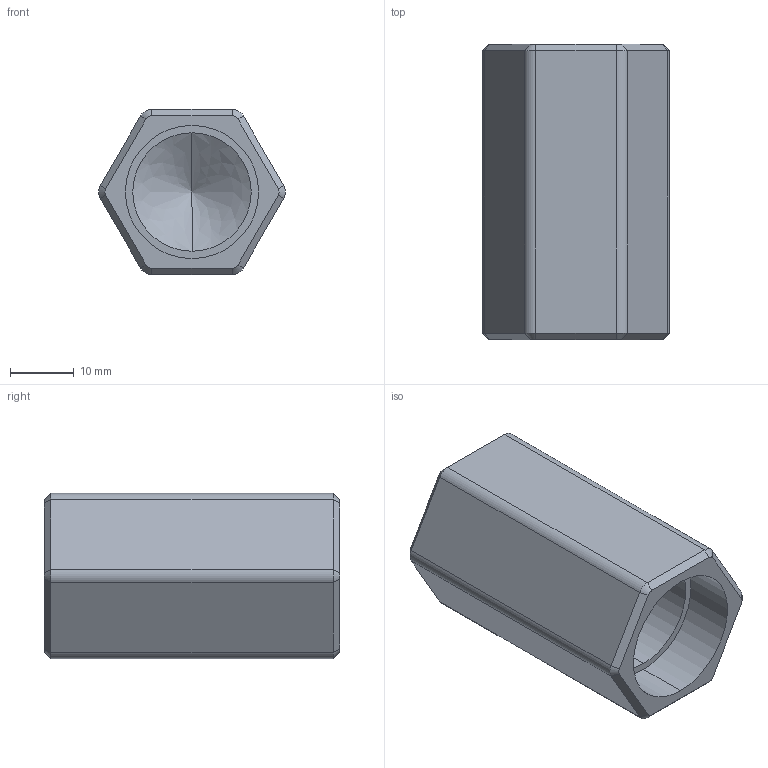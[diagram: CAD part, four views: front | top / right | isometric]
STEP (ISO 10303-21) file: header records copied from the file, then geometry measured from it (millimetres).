
FILE_DESCRIPTION( (''), '2;1');
FILE_NAME ('PC1276.13840.CF-90 15A_12731.stp','2025-12-10T12:55:44',(''),(''),'spGate 20.6.3 (****-****-****-****)','','');
FILE_SCHEMA (('AUTOMOTIVE_DESIGN'));
Length unit declared in the file: millimetre
Bounding box: 29.4 x 46.5 x 26 mm (x, y, z)
Volume: 15650.1 mm3; surface area: 7384.2 mm2
Topology: 1 solids, 1 shells, 52 faces, 116 edges, 66 vertices
Faces by surface type: plane 22, bspline 16, cylinder 14
Entity records: 2389 total; most frequent: CARTESIAN_POINT 338, ORIENTED_EDGE 224, DIRECTION 212, COLOUR_RGB 165, PRESENTATION_STYLE_ASSIGNMENT 165, STYLED_ITEM 165, EDGE_CURVE 112, DRAUGHTING_PRE_DEFINED_CURVE_FONT 112
